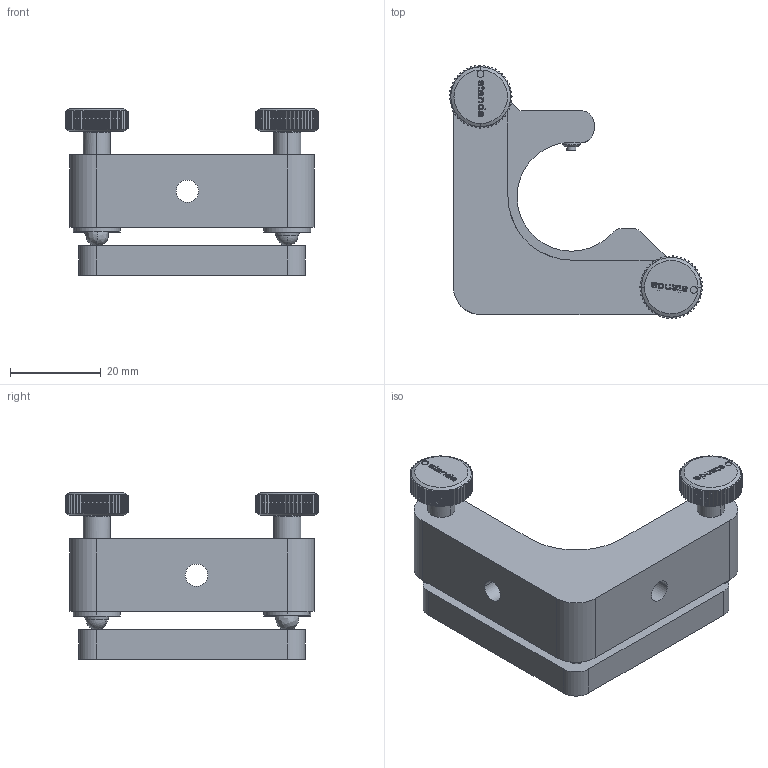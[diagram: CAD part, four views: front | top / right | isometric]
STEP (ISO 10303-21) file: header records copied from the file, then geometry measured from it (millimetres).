
FILE_DESCRIPTION (( 'STEP AP203' ), '1' );
FILE_NAME ('5MBM22S-1-2.STEP', '2011-09-02T11:38:50', ( 'Darius' ), ( '' ), 'SwSTEP 2.0', 'SolidWorks 2003240', '' );
FILE_SCHEMA (( 'CONFIG_CONTROL_DESIGN' ));
Length unit declared in the file: millimetre
Products named in the file (1): 5MBM22S-1-2
Bounding box: 55.79 x 55.8 x 36.71 mm (x, y, z)
Volume: 27372.6 mm3; surface area: 11138.2 mm2
Topology: 1 solids, 1 shells, 1184 faces, 3381 edges, 2245 vertices
Faces by surface type: cylinder 480, plane 406, bspline 264, cone 34
Entity records: 54558 total; most frequent: CARTESIAN_POINT 27147, ORIENTED_EDGE 6750, DIRECTION 4012, EDGE_CURVE 3375, VERTEX_POINT 2245, B_SPLINE_CURVE_WITH_KNOTS 1569, LINE 1442, VECTOR 1442
